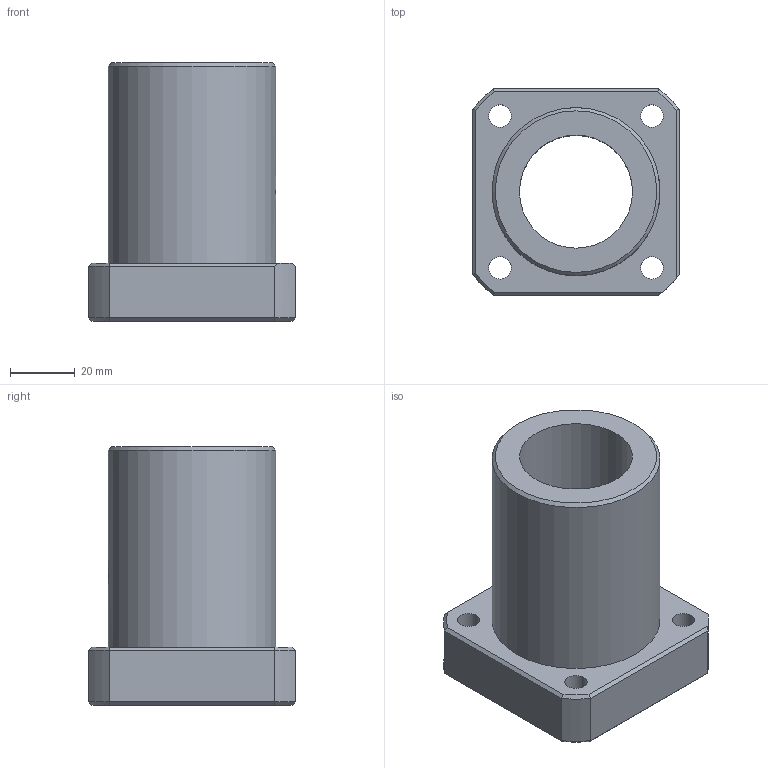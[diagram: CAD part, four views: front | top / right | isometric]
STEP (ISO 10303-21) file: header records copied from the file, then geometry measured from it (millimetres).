
FILE_DESCRIPTION((''),'2;1');
FILE_NAME('D:\製品 (図面)\カタログ用3D\シャフトブロック関連\STEP形式\SFW\SFW35.stp','2010-06-01T16:34:16',('Tsuchiya'),(''),'Autodesk Inventor 10','Autodesk Inventor 10','');
FILE_SCHEMA(('AUTOMOTIVE_DESIGN { 1 0 10303 214 1 1 1 1 }'));
Length unit declared in the file: millimetre
Products named in the file (1): SFW35
Bounding box: 64 x 64 x 80 mm (x, y, z)
Volume: 123885.1 mm3; surface area: 30273.1 mm2
Topology: 1 solids, 1 shells, 52 faces, 128 edges, 82 vertices
Faces by surface type: plane 29, cylinder 10, cone 9, bspline 4
Full cylindrical faces by diameter (mm): 7 x4, 35 x1, 52 x1
Entity records: 1623 total; most frequent: CARTESIAN_POINT 454, DIRECTION 224, ORIENTED_EDGE 222, EDGE_CURVE 111, AXIS2_PLACEMENT_3D 82, EDGE_LOOP 77, VERTEX_POINT 76, VECTOR 60
